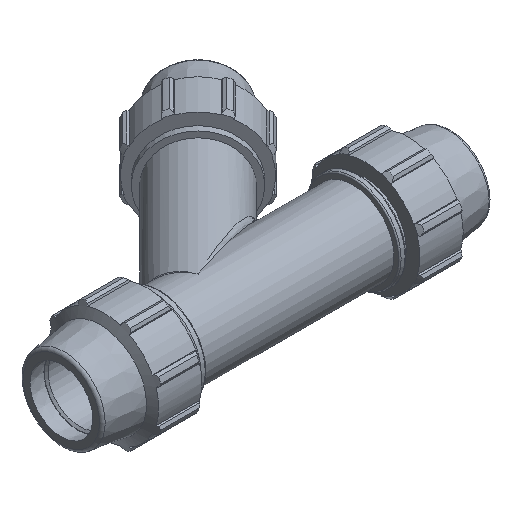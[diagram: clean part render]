
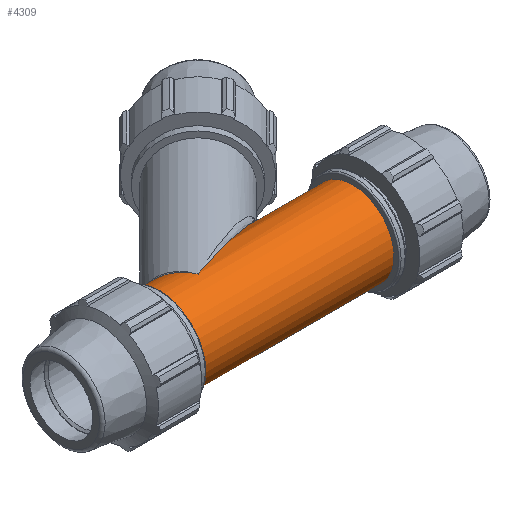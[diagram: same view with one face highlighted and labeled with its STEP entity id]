
A CAD part, isometric view. The second image highlights one B-rep face of the part: STEP entity #4309.
In plain terms, the highlighted cylindrical face has radius 39.56 mm (diameter 79.121 mm), a full revolution.
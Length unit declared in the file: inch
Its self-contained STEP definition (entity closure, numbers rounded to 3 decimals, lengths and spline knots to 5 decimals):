
#21=ELLIPSE('',#4586,4.60289,1.5575);
#24=ELLIPSE('',#4589,1.72571,1.5575);
#33=FACE_BOUND('',#656,.T.);
#139=CIRCLE('',#4605,1.5575);
#140=CIRCLE('',#4606,1.5575);
#141=CIRCLE('',#4607,1.5575);
#142=CIRCLE('',#4608,1.5575);
#327=CYLINDRICAL_SURFACE('',#4604,1.5575);
#434=FACE_OUTER_BOUND('',#655,.T.);
#655=EDGE_LOOP('',(#2945,#2946,#2947,#2948,#2949,#2950));
#656=EDGE_LOOP('',(#2951,#2952));
#927=LINE('',#6747,#1239);
#1239=VECTOR('',#5277,1.5575);
#1665=VERTEX_POINT('',#6670);
#1666=VERTEX_POINT('',#6671);
#1677=VERTEX_POINT('',#6742);
#1678=VERTEX_POINT('',#6743);
#1679=VERTEX_POINT('',#6746);
#1680=VERTEX_POINT('',#6748);
#2161=EDGE_CURVE('',#1665,#1666,#21,.T.);
#2164=EDGE_CURVE('',#1666,#1665,#24,.T.);
#2177=EDGE_CURVE('',#1677,#1678,#139,.T.);
#2178=EDGE_CURVE('',#1678,#1677,#140,.T.);
#2179=EDGE_CURVE('',#1678,#1679,#927,.T.);
#2180=EDGE_CURVE('',#1679,#1680,#141,.T.);
#2181=EDGE_CURVE('',#1680,#1679,#142,.T.);
#2945=ORIENTED_EDGE('',*,*,#2177,.F.);
#2946=ORIENTED_EDGE('',*,*,#2178,.F.);
#2947=ORIENTED_EDGE('',*,*,#2179,.T.);
#2948=ORIENTED_EDGE('',*,*,#2180,.T.);
#2949=ORIENTED_EDGE('',*,*,#2181,.T.);
#2950=ORIENTED_EDGE('',*,*,#2179,.F.);
#2951=ORIENTED_EDGE('',*,*,#2164,.F.);
#2952=ORIENTED_EDGE('',*,*,#2161,.F.);
#4309=ADVANCED_FACE('',(#434,#33),#327,.T.);
#4586=AXIS2_PLACEMENT_3D('',#6672,#5234,#5235);
#4589=AXIS2_PLACEMENT_3D('',#6716,#5240,#5241);
#4604=AXIS2_PLACEMENT_3D('',#6741,#5271,#5272);
#4605=AXIS2_PLACEMENT_3D('',#6744,#5273,#5274);
#4606=AXIS2_PLACEMENT_3D('',#6745,#5275,#5276);
#4607=AXIS2_PLACEMENT_3D('',#6749,#5278,#5279);
#4608=AXIS2_PLACEMENT_3D('',#6750,#5280,#5281);
#5234=DIRECTION('center_axis',(-0.338,0.941,0.));
#5235=DIRECTION('ref_axis',(0.941,0.338,0.));
#5240=DIRECTION('center_axis',(0.903,0.431,0.));
#5241=DIRECTION('ref_axis',(-0.431,0.903,0.));
#5271=DIRECTION('center_axis',(1.,0.,0.));
#5272=DIRECTION('ref_axis',(0.,1.,0.));
#5273=DIRECTION('center_axis',(1.,0.,0.));
#5274=DIRECTION('ref_axis',(0.,0.,-1.));
#5275=DIRECTION('center_axis',(1.,0.,0.));
#5276=DIRECTION('ref_axis',(0.,0.,-1.));
#5277=DIRECTION('',(-1.,0.,0.));
#5278=DIRECTION('center_axis',(1.,0.,0.));
#5279=DIRECTION('ref_axis',(0.,0.,-1.));
#5280=DIRECTION('center_axis',(1.,0.,0.));
#5281=DIRECTION('ref_axis',(0.,0.,-1.));
#6670=CARTESIAN_POINT('',(-2.186,0.,1.5575));
#6671=CARTESIAN_POINT('',(-2.186,0.,-1.5575));
#6672=CARTESIAN_POINT('Origin',(-2.186,0.,0.));
#6716=CARTESIAN_POINT('Origin',(-2.186,0.,0.));
#6741=CARTESIAN_POINT('Origin',(1.82277,0.,0.));
#6742=CARTESIAN_POINT('',(3.64553,1.5575,0.));
#6743=CARTESIAN_POINT('',(3.64553,-1.5575,0.));
#6744=CARTESIAN_POINT('Origin',(3.64553,0.,0.));
#6745=CARTESIAN_POINT('Origin',(3.64553,0.,0.));
#6746=CARTESIAN_POINT('',(-3.64553,-1.5575,0.));
#6747=CARTESIAN_POINT('',(1.82277,-1.5575,0.));
#6748=CARTESIAN_POINT('',(-3.64553,1.5575,0.));
#6749=CARTESIAN_POINT('Origin',(-3.64553,0.,
0.));
#6750=CARTESIAN_POINT('Origin',(-3.64553,0.,
0.));
